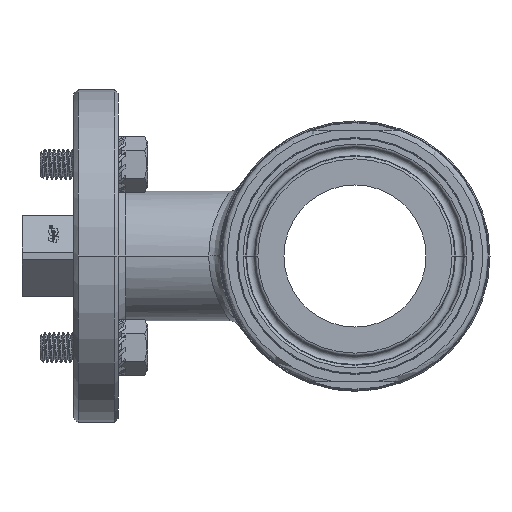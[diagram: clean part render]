
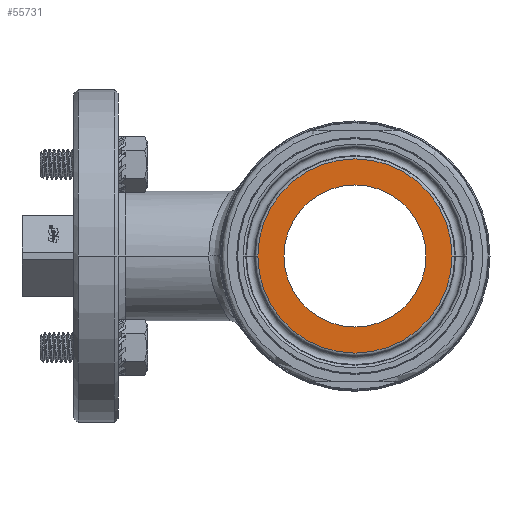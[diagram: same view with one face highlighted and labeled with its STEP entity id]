
A CAD part, left-side view. The second image highlights one B-rep face of the part: STEP entity #55731.
In plain terms, the highlighted planar face has unit normal (-1, 0, 0).
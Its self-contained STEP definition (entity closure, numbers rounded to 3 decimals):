
#2857=CARTESIAN_POINT('',(-63.,0.,0.));
#2858=DIRECTION('',(1.,0.,0.));
#2859=DIRECTION('',(0.,0.,-1.));
#2860=AXIS2_PLACEMENT_3D('',#2857,#2858,#2859);
#2865=CARTESIAN_POINT('',(-63.,0.,0.));
#2866=DIRECTION('',(1.,0.,0.));
#2867=DIRECTION('',(0.,0.,1.));
#2868=AXIS2_PLACEMENT_3D('',#2865,#2866,#2867);
#2873=CARTESIAN_POINT('',(-63.,0.,0.));
#2874=DIRECTION('',(1.,0.,0.));
#2875=DIRECTION('',(0.,-1.,0.));
#2876=AXIS2_PLACEMENT_3D('',#2873,#2874,#2875);
#2905=CARTESIAN_POINT('',(-63.,0.,0.));
#2906=DIRECTION('',(1.,0.,0.));
#2907=DIRECTION('',(0.,1.,0.));
#2908=AXIS2_PLACEMENT_3D('',#2905,#2906,#2907);
#52504=CARTESIAN_POINT('',(-63.,26.247,0.));
#52505=CARTESIAN_POINT('',(-63.,-26.247,0.));
#52506=VERTEX_POINT('',#52504);
#52507=VERTEX_POINT('',#52505);
#52540=CARTESIAN_POINT('',(-63.,0.,-19.2));
#52541=CARTESIAN_POINT('',(-63.,0.,19.2));
#52542=VERTEX_POINT('',#52540);
#52543=VERTEX_POINT('',#52541);
#55715=CARTESIAN_POINT('',(-63.,0.,0.));
#55716=DIRECTION('',(-1.,0.,0.));
#55717=DIRECTION('',(0.,1.,0.));
#55718=AXIS2_PLACEMENT_3D('',#55715,#55716,#55717);
#55719=PLANE('',#55718);
#55721=ORIENTED_EDGE('',*,*,#55720,.T.);
#55723=ORIENTED_EDGE('',*,*,#55722,.T.);
#55724=EDGE_LOOP('',(#55721,#55723));
#55725=FACE_OUTER_BOUND('',#55724,.F.);
#55726=ORIENTED_EDGE('',*,*,#55705,.F.);
#55728=ORIENTED_EDGE('',*,*,#55727,.F.);
#55729=EDGE_LOOP('',(#55726,#55728));
#55730=FACE_BOUND('',#55729,.F.);
#55731=ADVANCED_FACE('',(#55725,#55730),#55719,.T.);
#2861=CIRCLE('',#2860,19.2);
#2869=CIRCLE('',#2868,19.2);
#2877=CIRCLE('',#2876,26.247);
#2909=CIRCLE('',#2908,26.247);
#55705=EDGE_CURVE('',#52542,#52543,#2861,.T.);
#55720=EDGE_CURVE('',#52507,#52506,#2877,.T.);
#55722=EDGE_CURVE('',#52506,#52507,#2909,.T.);
#55727=EDGE_CURVE('',#52543,#52542,#2869,.T.);
